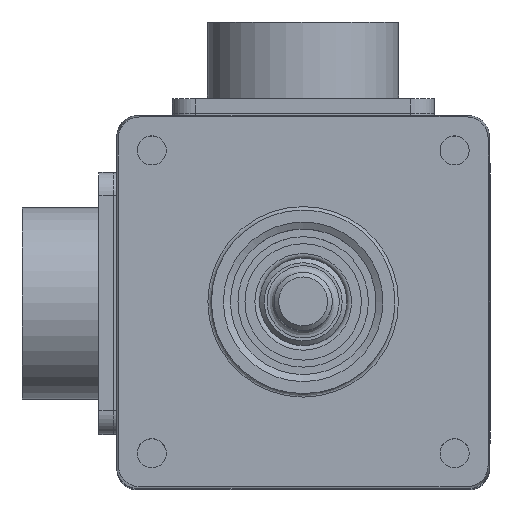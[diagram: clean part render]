
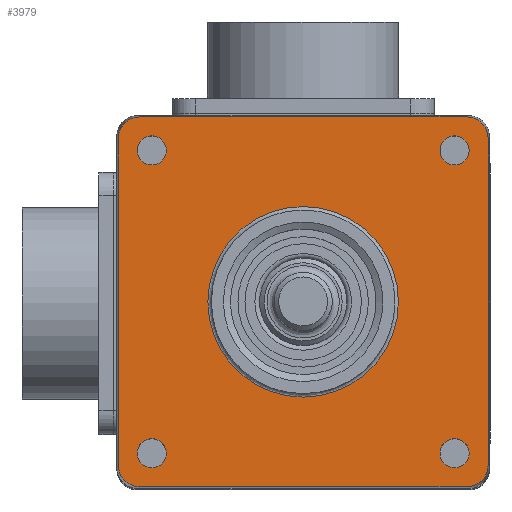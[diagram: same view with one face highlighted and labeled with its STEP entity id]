
A CAD part, top view. The second image highlights one B-rep face of the part: STEP entity #3979.
In plain terms, the highlighted planar face has unit normal (0, 0, 1).
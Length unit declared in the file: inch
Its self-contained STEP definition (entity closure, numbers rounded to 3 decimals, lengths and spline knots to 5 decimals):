
#3496=CARTESIAN_POINT('',(-0.79354,-0.70356,0.37));
#3497=VERTEX_POINT('',#3496);
#3506=CARTESIAN_POINT('',(-0.79354,0.70356,0.37));
#3507=VERTEX_POINT('',#3506);
#3508=CARTESIAN_POINT('',(-0.79354,-0.70356,0.37));
#3509=DIRECTION('',(0.0,1.0,0.0));
#3510=VECTOR('',#3509,1.40711);
#3511=LINE('',#3508,#3510);
#3512=EDGE_CURVE('',#3497,#3507,#3511,.T.);
#3538=CARTESIAN_POINT('',(0.79354,-0.70356,0.37));
#3539=VERTEX_POINT('',#3538);
#3554=CARTESIAN_POINT('',(0.79354,0.70356,0.37));
#3555=VERTEX_POINT('',#3554);
#3562=CARTESIAN_POINT('',(0.79354,0.70356,0.37));
#3563=DIRECTION('',(0.0,-1.0,0.0));
#3564=VECTOR('',#3563,1.40711);
#3565=LINE('',#3562,#3564);
#3566=EDGE_CURVE('',#3555,#3539,#3565,.T.);
#3747=CARTESIAN_POINT('',(0.409,0.,0.37));
#3748=VERTEX_POINT('',#3747);
#3749=CARTESIAN_POINT('',(0.0,0.0,0.37));
#3750=DIRECTION('',(0.0,0.0,1.0));
#3751=DIRECTION('',(-1.0,0.0,0.0));
#3752=AXIS2_PLACEMENT_3D('',#3749,#3750,#3751);
#3753=CIRCLE('',#3752,0.409);
#3754=EDGE_CURVE('',#3748,#3748,#3753,.T.);
#3764=CARTESIAN_POINT('',(-0.70356,0.79354,0.37));
#3765=VERTEX_POINT('',#3764);
#3766=CARTESIAN_POINT('',(-0.70353,0.70353,0.37));
#3767=DIRECTION('',(0.0,0.0,-1.));
#3768=DIRECTION('',(-0.707,0.707,0.0));
#3769=AXIS2_PLACEMENT_3D('',#3766,#3767,#3768);
#3770=ELLIPSE('',#3769,0.09003,0.09);
#3771=EDGE_CURVE('',#3507,#3765,#3770,.T.);
#3799=CARTESIAN_POINT('',(0.70356,0.79354,0.37));
#3800=VERTEX_POINT('',#3799);
#3814=CARTESIAN_POINT('',(-0.70356,0.79354,0.37));
#3815=DIRECTION('',(1.0,0.0,0.0));
#3816=VECTOR('',#3815,1.40711);
#3817=LINE('',#3814,#3816);
#3818=EDGE_CURVE('',#3765,#3800,#3817,.T.);
#3828=CARTESIAN_POINT('',(0.70353,0.70353,0.37));
#3829=DIRECTION('',(0.0,0.0,-1.));
#3830=DIRECTION('',(0.707,0.707,0.0));
#3831=AXIS2_PLACEMENT_3D('',#3828,#3829,#3830);
#3832=ELLIPSE('',#3831,0.09003,0.09);
#3833=EDGE_CURVE('',#3800,#3555,#3832,.T.);
#3852=CARTESIAN_POINT('',(0.70356,-0.79354,0.37));
#3853=VERTEX_POINT('',#3852);
#3854=CARTESIAN_POINT('',(0.70353,-0.70353,0.37));
#3855=DIRECTION('',(0.0,0.0,-1.));
#3856=DIRECTION('',(0.707,-0.707,0.0));
#3857=AXIS2_PLACEMENT_3D('',#3854,#3855,#3856);
#3858=ELLIPSE('',#3857,0.09003,0.09);
#3859=EDGE_CURVE('',#3539,#3853,#3858,.T.);
#3887=CARTESIAN_POINT('',(-0.70356,-0.79354,0.37));
#3888=VERTEX_POINT('',#3887);
#3902=CARTESIAN_POINT('',(0.70356,-0.79354,0.37));
#3903=DIRECTION('',(-1.0,0.0,0.0));
#3904=VECTOR('',#3903,1.40711);
#3905=LINE('',#3902,#3904);
#3906=EDGE_CURVE('',#3853,#3888,#3905,.T.);
#3911=CARTESIAN_POINT('',(0.,0.0,0.37));
#3912=DIRECTION('',(0.0,0.0,1.0));
#3913=DIRECTION('',(1.0,0.0,0.0));
#3914=AXIS2_PLACEMENT_3D('',#3911,#3912,#3913);
#3915=PLANE('',#3914);
#3916=CARTESIAN_POINT('',(-0.70353,-0.70353,0.37));
#3917=DIRECTION('',(0.0,0.0,-1.));
#3918=DIRECTION('',(-0.707,-0.707,0.0));
#3919=AXIS2_PLACEMENT_3D('',#3916,#3917,#3918);
#3920=ELLIPSE('',#3919,0.09003,0.09);
#3921=EDGE_CURVE('',#3888,#3497,#3920,.T.);
#3922=ORIENTED_EDGE('',*,*,#3921,.F.);
#3923=ORIENTED_EDGE('',*,*,#3906,.F.);
#3924=ORIENTED_EDGE('',*,*,#3859,.F.);
#3925=ORIENTED_EDGE('',*,*,#3566,.F.);
#3926=ORIENTED_EDGE('',*,*,#3833,.F.);
#3927=ORIENTED_EDGE('',*,*,#3818,.F.);
#3928=ORIENTED_EDGE('',*,*,#3771,.F.);
#3929=ORIENTED_EDGE('',*,*,#3512,.F.);
#3930=EDGE_LOOP('',(#3922,#3923,#3924,#3925,#3926,#3927,#3928,#3929));
#3931=FACE_OUTER_BOUND('',#3930,.T.);
#3932=CARTESIAN_POINT('',(-0.5875,-0.65,0.37));
#3933=VERTEX_POINT('',#3932);
#3934=CARTESIAN_POINT('',(-0.65,-0.65,0.37));
#3935=DIRECTION('',(0.0,0.0,-1.0));
#3936=DIRECTION('',(-1.0,0.0,0.0));
#3937=AXIS2_PLACEMENT_3D('',#3934,#3935,#3936);
#3938=CIRCLE('',#3937,0.0625);
#3939=EDGE_CURVE('',#3933,#3933,#3938,.T.);
#3940=ORIENTED_EDGE('',*,*,#3939,.T.);
#3941=EDGE_LOOP('',(#3940));
#3942=FACE_BOUND('',#3941,.T.);
#3943=CARTESIAN_POINT('',(0.7125,0.65,0.37));
#3944=VERTEX_POINT('',#3943);
#3945=CARTESIAN_POINT('',(0.65,0.65,0.37));
#3946=DIRECTION('',(0.0,0.0,-1.0));
#3947=DIRECTION('',(-1.0,0.0,0.0));
#3948=AXIS2_PLACEMENT_3D('',#3945,#3946,#3947);
#3949=CIRCLE('',#3948,0.0625);
#3950=EDGE_CURVE('',#3944,#3944,#3949,.T.);
#3951=ORIENTED_EDGE('',*,*,#3950,.T.);
#3952=EDGE_LOOP('',(#3951));
#3953=FACE_BOUND('',#3952,.T.);
#3954=CARTESIAN_POINT('',(0.7125,-0.65,0.37));
#3955=VERTEX_POINT('',#3954);
#3956=CARTESIAN_POINT('',(0.65,-0.65,0.37));
#3957=DIRECTION('',(0.0,0.0,-1.0));
#3958=DIRECTION('',(-1.0,0.0,0.0));
#3959=AXIS2_PLACEMENT_3D('',#3956,#3957,#3958);
#3960=CIRCLE('',#3959,0.0625);
#3961=EDGE_CURVE('',#3955,#3955,#3960,.T.);
#3962=ORIENTED_EDGE('',*,*,#3961,.T.);
#3963=EDGE_LOOP('',(#3962));
#3964=FACE_BOUND('',#3963,.T.);
#3965=CARTESIAN_POINT('',(-0.5875,0.65,0.37));
#3966=VERTEX_POINT('',#3965);
#3967=CARTESIAN_POINT('',(-0.65,0.65,0.37));
#3968=DIRECTION('',(0.0,0.0,-1.0));
#3969=DIRECTION('',(-1.0,0.0,0.0));
#3970=AXIS2_PLACEMENT_3D('',#3967,#3968,#3969);
#3971=CIRCLE('',#3970,0.0625);
#3972=EDGE_CURVE('',#3966,#3966,#3971,.T.);
#3973=ORIENTED_EDGE('',*,*,#3972,.T.);
#3974=EDGE_LOOP('',(#3973));
#3975=FACE_BOUND('',#3974,.T.);
#3976=ORIENTED_EDGE('',*,*,#3754,.F.);
#3977=EDGE_LOOP('',(#3976));
#3978=FACE_BOUND('',#3977,.T.);
#3979=ADVANCED_FACE('',(#3931,#3942,#3953,#3964,#3975,#3978),#3915,.T.);
